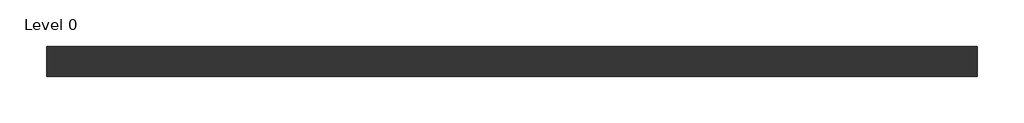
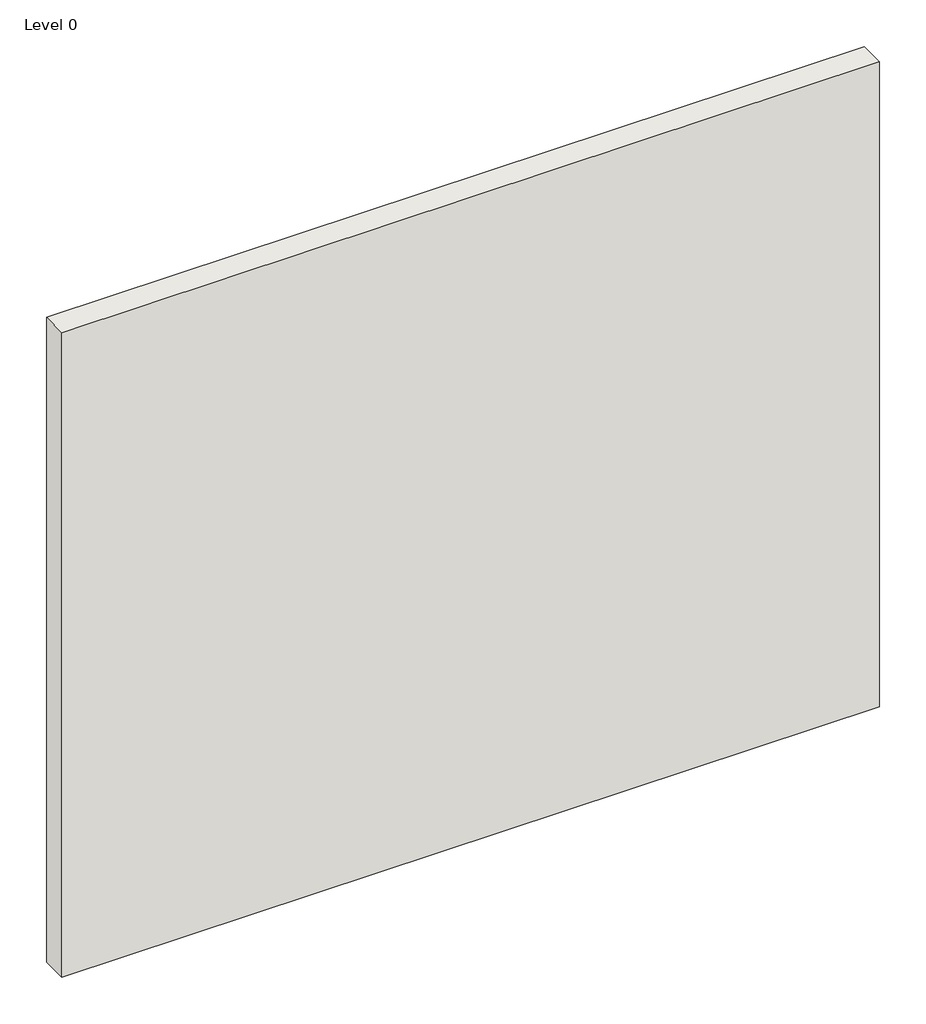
# One storey: 1 wall.
"""IFC4 building model written with IfcOpenShell, lengths in millimetres."""

from ifc_helpers import new_model, si_unit, origin, origin_with_axes, place, context, project, spatial, polyline, outline, extrude, element, save

model = new_model("IFC4")

# Units and contexts
model_context = context("Model", 3, world=origin())
ifc_project = project(units=[si_unit("LENGTHUNIT", "METRE", prefix="MILLI")], contexts=[model_context])

# Site, building, storey
site = spatial("IfcSite", under=ifc_project)
building = spatial("IfcBuilding", under=site)
storey = spatial("IfcBuildingStorey", under=building, Name="Level 0", Elevation=0.0)

# Wall
placement = place(None, origin())
element("IfcWall", 1, ObjectType="A306012 (b) - ShaftWall", at=placement, inside=storey, context=model_context, shape_type="SweptSolid", body=[
    extrude(outline(polyline([(2116.0807354, 545.2205641), (-883.9192646, 545.2205641), (-883.9192646, 642.2205641), (2116.0807354, 642.2205641), (2116.0807354, 545.2205641)])), origin_with_axes(), (0.0, 0.0, 1.0), 2500.0),
])

save(model, "model.ifc")
